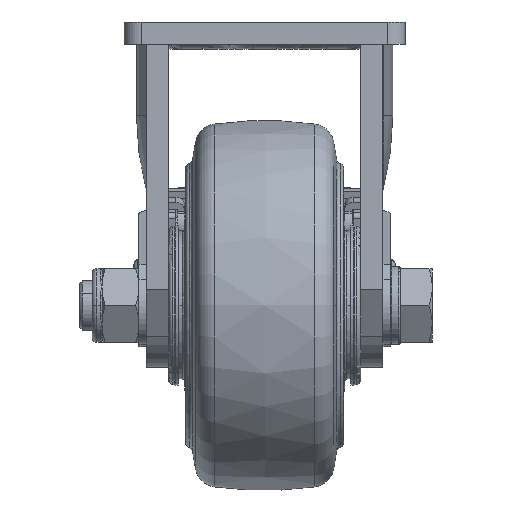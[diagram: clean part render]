
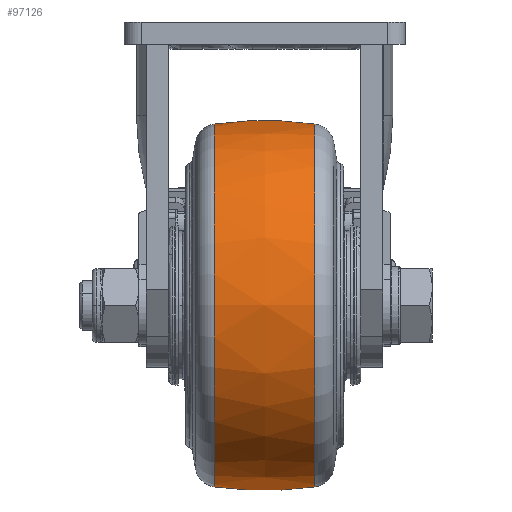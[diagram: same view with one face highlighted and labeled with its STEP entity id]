
A CAD part, left-side view. The second image highlights one B-rep face of the part: STEP entity #97126.
In plain terms, the highlighted free-form (B-spline) face has degree [2, 2] with [3, 9] control points.
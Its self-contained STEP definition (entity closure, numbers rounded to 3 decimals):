
#1165=CARTESIAN_POINT('',(-1.,20.406,-184.106));
#1166=VERTEX_POINT('',#1165);
#1184=CARTESIAN_POINT('',(-1.,20.406,-36.894));
#1185=VERTEX_POINT('',#1184);
#1238=CARTESIAN_POINT('',(-1.,-20.406,-184.106));
#1239=VERTEX_POINT('',#1238);
#1240=CARTESIAN_POINT('',(-1.,0.,-35.5));
#1241=DIRECTION('',(-1.0,0.0,0.0));
#1242=DIRECTION('',(0.0,0.0,-1.0));
#1243=AXIS2_PLACEMENT_3D('',#1240,#1241,#1242);
#1244=CIRCLE('',#1243,150.0);
#1245=EDGE_CURVE('',#1166,#1239,#1244,.T.);
#1248=CARTESIAN_POINT('',(-1.,-20.406,-36.894));
#1249=VERTEX_POINT('',#1248);
#1250=CARTESIAN_POINT('',(-1.,0.,-185.5));
#1251=DIRECTION('',(1.0,0.0,0.0));
#1252=DIRECTION('',(0.0,0.0,1.0));
#1253=AXIS2_PLACEMENT_3D('',#1250,#1251,#1252);
#1254=CIRCLE('',#1253,150.0);
#1255=EDGE_CURVE('',#1185,#1249,#1254,.T.);
#97050=CARTESIAN_POINT('',(-74.606,-20.406,-110.5));
#97051=VERTEX_POINT('',#97050);
#97052=CARTESIAN_POINT('',(-1.,-20.406,-110.5));
#97053=DIRECTION('',(0.0,1.0,0.0));
#97054=DIRECTION('',(-1.0,0.0,0.0));
#97055=AXIS2_PLACEMENT_3D('',#97052,#97053,#97054);
#97056=CIRCLE('',#97055,73.606);
#97057=EDGE_CURVE('',#97051,#1249,#97056,.T.);
#97059=CARTESIAN_POINT('',(-1.,-20.406,-110.5));
#97060=DIRECTION('',(0.0,1.0,0.0));
#97061=DIRECTION('',(-1.0,0.0,0.0));
#97062=AXIS2_PLACEMENT_3D('',#97059,#97060,#97061);
#97063=CIRCLE('',#97062,73.606);
#97064=EDGE_CURVE('',#1239,#97051,#97063,.T.);
#97069=CARTESIAN_POINT('',(-1.,-20.406,-36.894));
#97070=CARTESIAN_POINT('',(-1.,0.,-34.092));
#97071=CARTESIAN_POINT('',(-1.,20.406,-36.894));
#97072=CARTESIAN_POINT('',(-74.606,-20.406,-36.894));
#97073=CARTESIAN_POINT('',(-77.408,0.,-34.092));
#97074=CARTESIAN_POINT('',(-74.606,20.406,-36.894));
#97075=CARTESIAN_POINT('',(-74.606,-20.406,-110.5));
#97076=CARTESIAN_POINT('',(-77.408,0.,-110.5));
#97077=CARTESIAN_POINT('',(-74.606,20.406,-110.5));
#97078=CARTESIAN_POINT('',(-74.606,-20.406,-184.106));
#97079=CARTESIAN_POINT('',(-77.408,0.,-186.908));
#97080=CARTESIAN_POINT('',(-74.606,20.406,-184.106));
#97081=CARTESIAN_POINT('',(-1.,-20.406,-184.106));
#97082=CARTESIAN_POINT('',(-1.,0.,-186.908));
#97083=CARTESIAN_POINT('',(-1.,20.406,-184.106));
#97084=CARTESIAN_POINT('',(72.606,-20.406,-184.106));
#97085=CARTESIAN_POINT('',(75.408,0.,-186.908));
#97086=CARTESIAN_POINT('',(72.606,20.406,-184.106));
#97087=CARTESIAN_POINT('',(72.606,-20.406,-110.5));
#97088=CARTESIAN_POINT('',(75.408,0.,-110.5));
#97089=CARTESIAN_POINT('',(72.606,20.406,-110.5));
#97090=CARTESIAN_POINT('',(72.606,-20.406,-36.894));
#97091=CARTESIAN_POINT('',(75.408,0.,-34.092));
#97092=CARTESIAN_POINT('',(72.606,20.406,-36.894));
#97093=CARTESIAN_POINT('',(-1.,-20.406,-36.894));
#97094=CARTESIAN_POINT('',(-1.,0.,-34.092));
#97095=CARTESIAN_POINT('',(-1.,20.406,-36.894));
#97103=(BOUNDED_SURFACE()B_SPLINE_SURFACE(2,2,((#97069,#97072,#97075,#97078,#97081,#97084,#97087,#97090,#97093),(#97070,#97073,#97076,#97079,#97082,#97085,#97088,#97091,#97094),(#97071,#97074,#97077,#97080,#97083,#97086,#97089,#97092,#97095)),.UNSPECIFIED.,.F.,.T.,.U.)B_SPLINE_SURFACE_WITH_KNOTS((3,3),(3,2,2,2,3),(-0.136,0.136),(0.0,1.571,3.142,4.712,6.283),.UNSPECIFIED.)GEOMETRIC_REPRESENTATION_ITEM()RATIONAL_B_SPLINE_SURFACE(((1.0,0.707,1.0,0.707,1.0,0.707,1.0,0.707,1.0),(0.991,0.701,0.991,0.701,0.991,0.701,0.991,0.701,0.991),(1.0,0.707,1.0,0.707,1.0,0.707,1.0,0.707,1.0)))REPRESENTATION_ITEM('')SURFACE());
#97104=ORIENTED_EDGE('',*,*,#1245,.T.);
#97105=ORIENTED_EDGE('',*,*,#97064,.T.);
#97106=ORIENTED_EDGE('',*,*,#97057,.T.);
#97107=ORIENTED_EDGE('',*,*,#1255,.F.);
#97108=CARTESIAN_POINT('',(-74.606,20.406,-110.5));
#97109=VERTEX_POINT('',#97108);
#97110=CARTESIAN_POINT('',(-1.,20.406,-110.5));
#97111=DIRECTION('',(0.0,1.0,0.0));
#97112=DIRECTION('',(-1.0,0.0,0.0));
#97113=AXIS2_PLACEMENT_3D('',#97110,#97111,#97112);
#97114=CIRCLE('',#97113,73.606);
#97115=EDGE_CURVE('',#97109,#1185,#97114,.T.);
#97116=ORIENTED_EDGE('',*,*,#97115,.F.);
#97117=CARTESIAN_POINT('',(-1.,20.406,-110.5));
#97118=DIRECTION('',(0.0,1.0,0.0));
#97119=DIRECTION('',(-1.0,0.0,0.0));
#97120=AXIS2_PLACEMENT_3D('',#97117,#97118,#97119);
#97121=CIRCLE('',#97120,73.606);
#97122=EDGE_CURVE('',#1166,#97109,#97121,.T.);
#97123=ORIENTED_EDGE('',*,*,#97122,.F.);
#97124=EDGE_LOOP('',(#97104,#97105,#97106,#97107,#97116,#97123));
#97125=FACE_OUTER_BOUND('',#97124,.T.);
#97126=ADVANCED_FACE('',(#97125),#97103,.T.);
